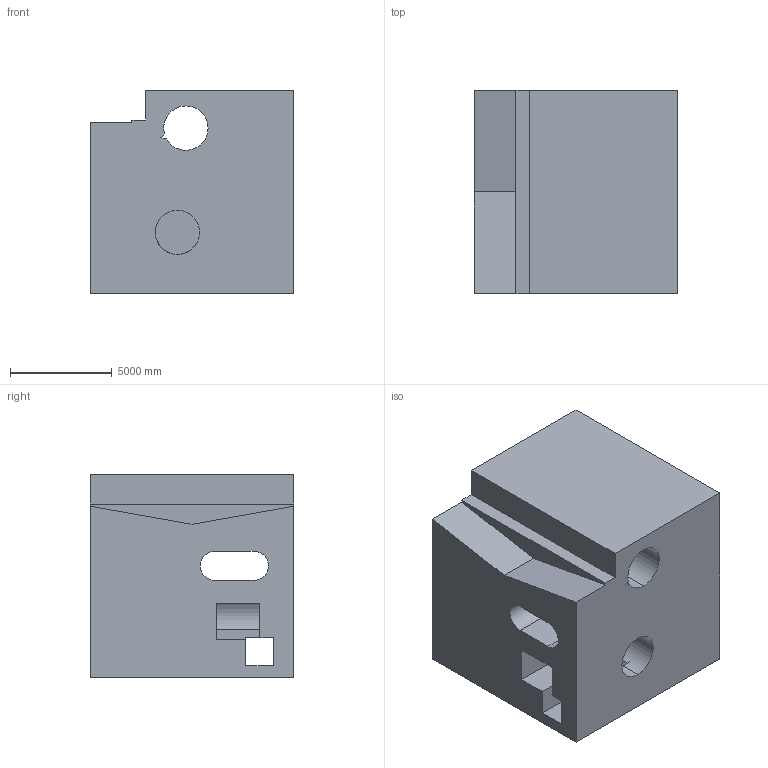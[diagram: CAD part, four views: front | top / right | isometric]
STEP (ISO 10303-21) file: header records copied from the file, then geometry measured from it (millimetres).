
FILE_DESCRIPTION (( 'STEP AP203' ), '1' );
FILE_NAME ('1790.STEP', '2022-08-19T12:54:39', ( 'user' ), ( '' ), 'SwSTEP 2.0', 'SolidWorks 2021', '' );
FILE_SCHEMA (( 'CONFIG_CONTROL_DESIGN' ));
Length unit declared in the file: centimetre
Products named in the file (1): 1790
Bounding box: 10000 x 10000 x 10000 mm (x, y, z)
Volume: 819007413945.5 mm3; surface area: 824916798.6 mm2
Topology: 1 solids, 1 shells, 34 faces, 99 edges, 66 vertices
Faces by surface type: plane 27, cylinder 7
Entity records: 1216 total; most frequent: CARTESIAN_POINT 200, ORIENTED_EDGE 198, DIRECTION 189, EDGE_CURVE 99, LINE 79, VECTOR 79, VERTEX_POINT 66, AXIS2_PLACEMENT_3D 55
